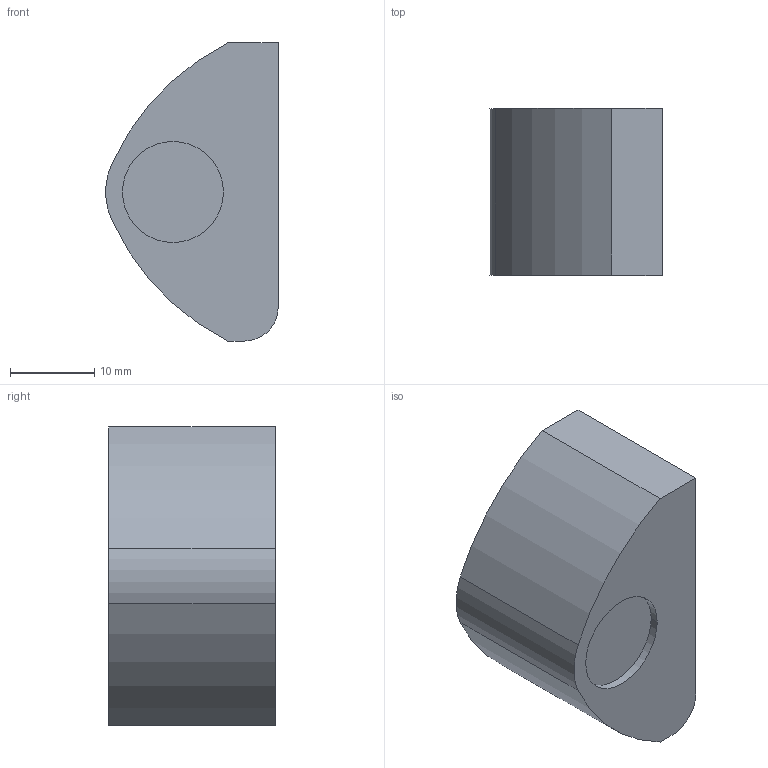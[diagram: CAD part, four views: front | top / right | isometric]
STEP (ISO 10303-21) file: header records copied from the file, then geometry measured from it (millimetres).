
FILE_DESCRIPTION (( 'STEP AP214' ), '1' );
FILE_NAME ('Stahlrueckwandhalter_Links.STEP', '2010-09-07T13:39:54', ( 'grass' ), ( '' ), 'SwSTEP 2.0', 'SolidWorks 2010', '' );
FILE_SCHEMA (( 'AUTOMOTIVE_DESIGN' ));
Length unit declared in the file: millimetre
Products named in the file (1): Stahlrueckwandhalter_Links
Bounding box: 20.47 x 19.8 x 35.4 mm (x, y, z)
Volume: 7728.3 mm3; surface area: 3057.6 mm2
Topology: 1 solids, 1 shells, 17 faces, 42 edges, 28 vertices
Faces by surface type: plane 11, cylinder 6
Entity records: 542 total; most frequent: DIRECTION 90, CARTESIAN_POINT 88, ORIENTED_EDGE 84, EDGE_CURVE 42, LINE 30, VECTOR 30, AXIS2_PLACEMENT_3D 30, VERTEX_POINT 28
